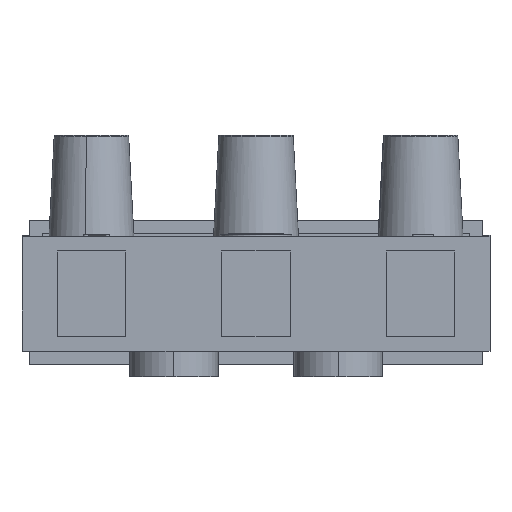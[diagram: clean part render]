
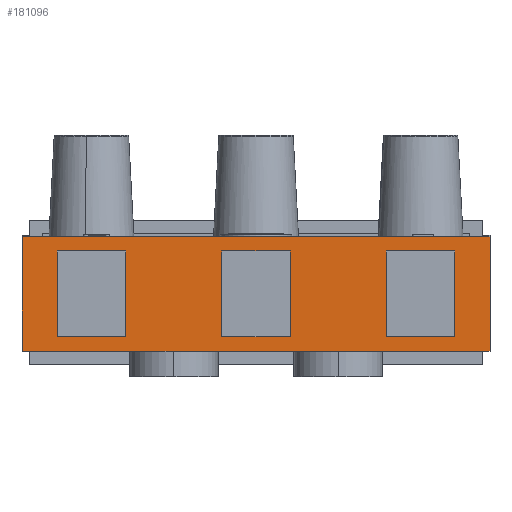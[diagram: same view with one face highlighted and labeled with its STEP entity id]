
A CAD part, front view. The second image highlights one B-rep face of the part: STEP entity #181096.
In plain terms, the highlighted planar face has unit normal (0, -1, 0).
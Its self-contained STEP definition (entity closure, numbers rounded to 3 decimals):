
#168966=CARTESIAN_POINT(' ',(-4.85,0.,4.75));
#168967=VERTEX_POINT(' ',#168966);
#168981=CARTESIAN_POINT(' ',(-4.85,0.,4.75));
#168986=DIRECTION(' ',(1.,0.,0.));
#168991=VECTOR(' ',#168986,1.);
#168996=LINE(' ',#168981,#168991);
#169001=CARTESIAN_POINT(' ',(27.85,0.,4.75));
#169002=VERTEX_POINT(' ',#169001);
#169006=EDGE_CURVE(' ',#168967,#169002,#168996,.T.);
#178281=CARTESIAN_POINT(' ',(27.85,0.,-3.25));
#178282=VERTEX_POINT(' ',#178281);
#178296=CARTESIAN_POINT(' ',(-4.85,0.,-3.25));
#178301=DIRECTION(' ',(1.,0.,0.));
#178306=VECTOR(' ',#178301,1.);
#178311=LINE(' ',#178296,#178306);
#178316=CARTESIAN_POINT(' ',(-4.85,0.,-3.25));
#178317=VERTEX_POINT(' ',#178316);
#178321=EDGE_CURVE(' ',#178317,#178282,#178311,.T.);
#180476=CARTESIAN_POINT(' ',(-4.85,0.,4.75));
#180481=DIRECTION(' ',(0.,0.,-1.));
#180486=VECTOR(' ',#180481,1.);
#180491=LINE(' ',#180476,#180486);
#180496=EDGE_CURVE(' ',#168967,#178317,#180491,.T.);
#180566=CARTESIAN_POINT(' ',(-8.12,0.,-4.05));
#180571=DIRECTION(' ',(0.,-1.,0.));
#180576=DIRECTION(' ',(1.,0.,0.));
#180581=AXIS2_PLACEMENT_3D(' ',#180566,#180571,#180576);
#180586=PLANE(' ',#180581);
#180591=ORIENTED_EDGE(' ',*,*,#180496,.T.);
#180596=ORIENTED_EDGE(' ',*,*,#178321,.T.);
#180601=CARTESIAN_POINT(' ',(27.85,0.,4.75));
#180606=DIRECTION(' ',(0.,0.,-1.));
#180611=VECTOR(' ',#180606,1.);
#180616=LINE(' ',#180601,#180611);
#180621=EDGE_CURVE(' ',#169002,#178282,#180616,.T.);
#180626=ORIENTED_EDGE(' ',*,*,#180621,.F.);
#180631=ORIENTED_EDGE(' ',*,*,#169006,.F.);
#180636=EDGE_LOOP(' ',(#180591,#180596,#180626,#180631));
#180641=FACE_OUTER_BOUND(' ',#180636,.T.);
#180646=CARTESIAN_POINT(' ',(-2.4,0.,-2.25));
#180651=DIRECTION(' ',(1.,0.,0.));
#180656=VECTOR(' ',#180651,1.);
#180661=LINE(' ',#180646,#180656);
#180666=CARTESIAN_POINT(' ',(-2.4,0.,-2.25));
#180667=VERTEX_POINT(' ',#180666);
#180671=CARTESIAN_POINT(' ',(2.4,0.,-2.25));
#180672=VERTEX_POINT(' ',#180671);
#180676=EDGE_CURVE(' ',#180667,#180672,#180661,.T.);
#180681=ORIENTED_EDGE(' ',*,*,#180676,.F.);
#180686=CARTESIAN_POINT(' ',(-2.4,0.,3.75));
#180691=DIRECTION(' ',(0.,0.,-1.));
#180696=VECTOR(' ',#180691,1.);
#180701=LINE(' ',#180686,#180696);
#180706=CARTESIAN_POINT(' ',(-2.4,0.,3.75));
#180707=VERTEX_POINT(' ',#180706);
#180711=EDGE_CURVE(' ',#180707,#180667,#180701,.T.);
#180716=ORIENTED_EDGE(' ',*,*,#180711,.F.);
#180721=CARTESIAN_POINT(' ',(2.4,0.,3.75));
#180726=DIRECTION(' ',(-1.,0.,0.));
#180731=VECTOR(' ',#180726,1.);
#180736=LINE(' ',#180721,#180731);
#180741=CARTESIAN_POINT(' ',(2.4,0.,3.75));
#180742=VERTEX_POINT(' ',#180741);
#180746=EDGE_CURVE(' ',#180742,#180707,#180736,.T.);
#180751=ORIENTED_EDGE(' ',*,*,#180746,.F.);
#180756=CARTESIAN_POINT(' ',(2.4,0.,-2.25));
#180761=DIRECTION(' ',(0.,0.,1.));
#180766=VECTOR(' ',#180761,1.);
#180771=LINE(' ',#180756,#180766);
#180776=EDGE_CURVE(' ',#180672,#180742,#180771,.T.);
#180781=ORIENTED_EDGE(' ',*,*,#180776,.F.);
#180786=EDGE_LOOP(' ',(#180681,#180716,#180751,#180781));
#180791=FACE_BOUND(' ',#180786,.T.);
#180796=CARTESIAN_POINT(' ',(9.1,0.,-2.25));
#180801=DIRECTION(' ',(1.,0.,0.));
#180806=VECTOR(' ',#180801,1.);
#180811=LINE(' ',#180796,#180806);
#180816=CARTESIAN_POINT(' ',(9.1,0.,-2.25));
#180817=VERTEX_POINT(' ',#180816);
#180821=CARTESIAN_POINT(' ',(13.9,0.,-2.25));
#180822=VERTEX_POINT(' ',#180821);
#180826=EDGE_CURVE(' ',#180817,#180822,#180811,.T.);
#180831=ORIENTED_EDGE(' ',*,*,#180826,.F.);
#180836=CARTESIAN_POINT(' ',(9.1,0.,3.75));
#180841=DIRECTION(' ',(0.,0.,-1.));
#180846=VECTOR(' ',#180841,1.);
#180851=LINE(' ',#180836,#180846);
#180856=CARTESIAN_POINT(' ',(9.1,0.,3.75));
#180857=VERTEX_POINT(' ',#180856);
#180861=EDGE_CURVE(' ',#180857,#180817,#180851,.T.);
#180866=ORIENTED_EDGE(' ',*,*,#180861,.F.);
#180871=CARTESIAN_POINT(' ',(13.9,0.,3.75));
#180876=DIRECTION(' ',(-1.,0.,0.));
#180881=VECTOR(' ',#180876,1.);
#180886=LINE(' ',#180871,#180881);
#180891=CARTESIAN_POINT(' ',(13.9,0.,3.75));
#180892=VERTEX_POINT(' ',#180891);
#180896=EDGE_CURVE(' ',#180892,#180857,#180886,.T.);
#180901=ORIENTED_EDGE(' ',*,*,#180896,.F.);
#180906=CARTESIAN_POINT(' ',(13.9,0.,-2.25));
#180911=DIRECTION(' ',(0.,0.,1.));
#180916=VECTOR(' ',#180911,1.);
#180921=LINE(' ',#180906,#180916);
#180926=EDGE_CURVE(' ',#180822,#180892,#180921,.T.);
#180931=ORIENTED_EDGE(' ',*,*,#180926,.F.);
#180936=EDGE_LOOP(' ',(#180831,#180866,#180901,#180931));
#180941=FACE_BOUND(' ',#180936,.T.);
#180946=CARTESIAN_POINT(' ',(20.6,0.,-2.25));
#180951=DIRECTION(' ',(1.,0.,0.));
#180956=VECTOR(' ',#180951,1.);
#180961=LINE(' ',#180946,#180956);
#180966=CARTESIAN_POINT(' ',(20.6,0.,-2.25));
#180967=VERTEX_POINT(' ',#180966);
#180971=CARTESIAN_POINT(' ',(25.4,0.,-2.25));
#180972=VERTEX_POINT(' ',#180971);
#180976=EDGE_CURVE(' ',#180967,#180972,#180961,.T.);
#180981=ORIENTED_EDGE(' ',*,*,#180976,.F.);
#180986=CARTESIAN_POINT(' ',(20.6,0.,3.75));
#180991=DIRECTION(' ',(0.,0.,-1.));
#180996=VECTOR(' ',#180991,1.);
#181001=LINE(' ',#180986,#180996);
#181006=CARTESIAN_POINT(' ',(20.6,0.,3.75));
#181007=VERTEX_POINT(' ',#181006);
#181011=EDGE_CURVE(' ',#181007,#180967,#181001,.T.);
#181016=ORIENTED_EDGE(' ',*,*,#181011,.F.);
#181021=CARTESIAN_POINT(' ',(25.4,0.,3.75));
#181026=DIRECTION(' ',(-1.,0.,0.));
#181031=VECTOR(' ',#181026,1.);
#181036=LINE(' ',#181021,#181031);
#181041=CARTESIAN_POINT(' ',(25.4,0.,3.75));
#181042=VERTEX_POINT(' ',#181041);
#181046=EDGE_CURVE(' ',#181042,#181007,#181036,.T.);
#181051=ORIENTED_EDGE(' ',*,*,#181046,.F.);
#181056=CARTESIAN_POINT(' ',(25.4,0.,-2.25));
#181061=DIRECTION(' ',(0.,0.,1.));
#181066=VECTOR(' ',#181061,1.);
#181071=LINE(' ',#181056,#181066);
#181076=EDGE_CURVE(' ',#180972,#181042,#181071,.T.);
#181081=ORIENTED_EDGE(' ',*,*,#181076,.F.);
#181086=EDGE_LOOP(' ',(#180981,#181016,#181051,#181081));
#181091=FACE_BOUND(' ',#181086,.T.);
#181096=ADVANCED_FACE(' ',(#180641,#180791,#180941,#181091),#180586,.T.);
